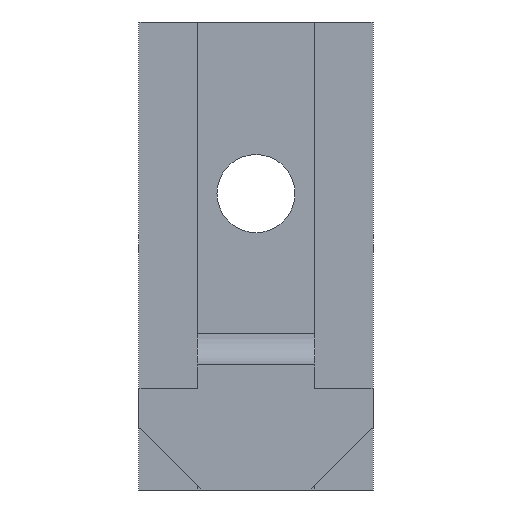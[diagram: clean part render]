
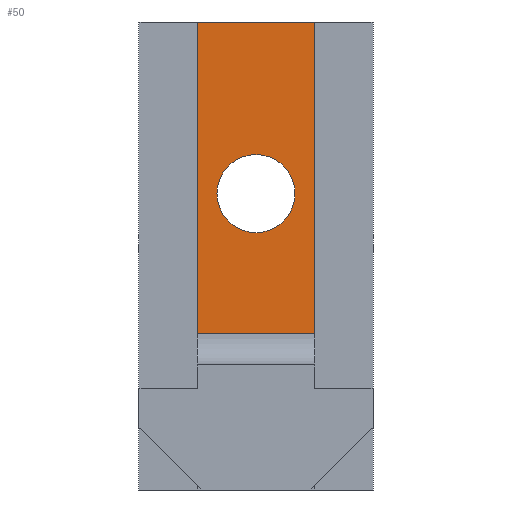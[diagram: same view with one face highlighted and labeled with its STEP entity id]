
A CAD part, left-side view. The second image highlights one B-rep face of the part: STEP entity #50.
In plain terms, the highlighted planar face has unit normal (-1, 0, 0).
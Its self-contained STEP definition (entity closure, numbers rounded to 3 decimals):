
#8 = CIRCLE ( 'NONE', #235, 2.5 ) ;
#32 = DIRECTION ( 'NONE',  ( 0., -1., 0. ) ) ;
#43 = CIRCLE ( 'NONE', #122, 2.5 ) ;
#45 = DIRECTION ( 'NONE',  ( 0., 0., -1. ) ) ;
#50 = ADVANCED_FACE ( 'NONE', ( #623, #834 ), #362, .F. ) ;
#122 = AXIS2_PLACEMENT_3D ( 'NONE', #1046, #502, #45 ) ;
#172 = CARTESIAN_POINT ( 'NONE',  ( -31.603, 13.357, 30. ) ) ;
#173 = VECTOR ( 'NONE', #221, 1000. ) ;
#179 = VERTEX_POINT ( 'NONE', #319 ) ;
#221 = DIRECTION ( 'NONE',  ( 0., -1., 0. ) ) ;
#222 = CARTESIAN_POINT ( 'NONE',  ( -31.603, 9.606, 19. ) ) ;
#235 = AXIS2_PLACEMENT_3D ( 'NONE', #222, #783, #301 ) ;
#260 = CARTESIAN_POINT ( 'NONE',  ( -31.603, 5.85, 10.024 ) ) ;
#262 = EDGE_LOOP ( 'NONE', ( #389, #1040, #617, #914 ) ) ;
#292 = VECTOR ( 'NONE', #32, 1000. ) ;
#301 = DIRECTION ( 'NONE',  ( 0., 0., -1. ) ) ;
#307 = CARTESIAN_POINT ( 'NONE',  ( -31.603, 13.357, 30. ) ) ;
#310 = VECTOR ( 'NONE', #931, 1000. ) ;
#319 = CARTESIAN_POINT ( 'NONE',  ( -31.603, 9.606, 21.5 ) ) ;
#328 = EDGE_CURVE ( 'NONE', #649, #669, #1037, .T. ) ;
#329 = CARTESIAN_POINT ( 'NONE',  ( -31.603, 9.606, 16.5 ) ) ;
#334 = EDGE_CURVE ( 'NONE', #655, #669, #633, .T. ) ;
#362 = PLANE ( 'NONE',  #730 ) ;
#381 = LINE ( 'NONE', #440, #173 ) ;
#389 = ORIENTED_EDGE ( 'NONE', *, *, #445, .T. ) ;
#436 = CARTESIAN_POINT ( 'NONE',  ( -31.603, 13.357, 30. ) ) ;
#440 = CARTESIAN_POINT ( 'NONE',  ( -31.603, 13.357, 30. ) ) ;
#445 = EDGE_CURVE ( 'NONE', #668, #655, #928, .T. ) ;
#502 = DIRECTION ( 'NONE',  ( 1., 0., 0. ) ) ;
#512 = DIRECTION ( 'NONE',  ( 0., 0., -1. ) ) ;
#530 = EDGE_CURVE ( 'NONE', #664, #179, #43, .T. ) ;
#557 = ORIENTED_EDGE ( 'NONE', *, *, #798, .T. ) ;
#565 = VECTOR ( 'NONE', #892, 1000. ) ;
#617 = ORIENTED_EDGE ( 'NONE', *, *, #328, .F. ) ;
#623 = FACE_BOUND ( 'NONE', #809, .T. ) ;
#633 = LINE ( 'NONE', #890, #292 ) ;
#639 = CARTESIAN_POINT ( 'NONE',  ( -31.603, 5.85, 30. ) ) ;
#649 = VERTEX_POINT ( 'NONE', #639 ) ;
#653 = ORIENTED_EDGE ( 'NONE', *, *, #530, .T. ) ;
#655 = VERTEX_POINT ( 'NONE', #825 ) ;
#664 = VERTEX_POINT ( 'NONE', #329 ) ;
#668 = VERTEX_POINT ( 'NONE', #172 ) ;
#669 = VERTEX_POINT ( 'NONE', #260 ) ;
#730 = AXIS2_PLACEMENT_3D ( 'NONE', #436, #1053, #512 ) ;
#783 = DIRECTION ( 'NONE',  ( 1., 0., 0. ) ) ;
#798 = EDGE_CURVE ( 'NONE', #179, #664, #8, .T. ) ;
#809 = EDGE_LOOP ( 'NONE', ( #653, #557 ) ) ;
#825 = CARTESIAN_POINT ( 'NONE',  ( -31.603, 13.357, 10.024 ) ) ;
#834 = FACE_OUTER_BOUND ( 'NONE', #262, .T. ) ;
#890 = CARTESIAN_POINT ( 'NONE',  ( -31.603, 13.357, 10.024 ) ) ;
#892 = DIRECTION ( 'NONE',  ( 0., 0., -1. ) ) ;
#910 = CARTESIAN_POINT ( 'NONE',  ( -31.603, 5.85, 30. ) ) ;
#914 = ORIENTED_EDGE ( 'NONE', *, *, #1036, .F. ) ;
#928 = LINE ( 'NONE', #307, #565 ) ;
#931 = DIRECTION ( 'NONE',  ( 0., 0., -1. ) ) ;
#1036 = EDGE_CURVE ( 'NONE', #668, #649, #381, .T. ) ;
#1037 = LINE ( 'NONE', #910, #310 ) ;
#1040 = ORIENTED_EDGE ( 'NONE', *, *, #334, .T. ) ;
#1046 = CARTESIAN_POINT ( 'NONE',  ( -31.603, 9.606, 19. ) ) ;
#1053 = DIRECTION ( 'NONE',  ( 1., 0., 0. ) ) ;
